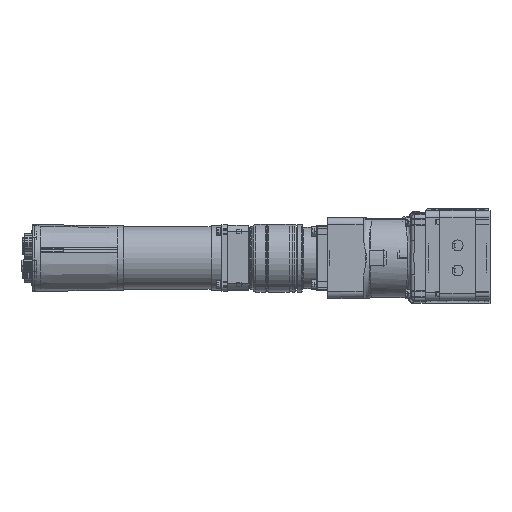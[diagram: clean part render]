
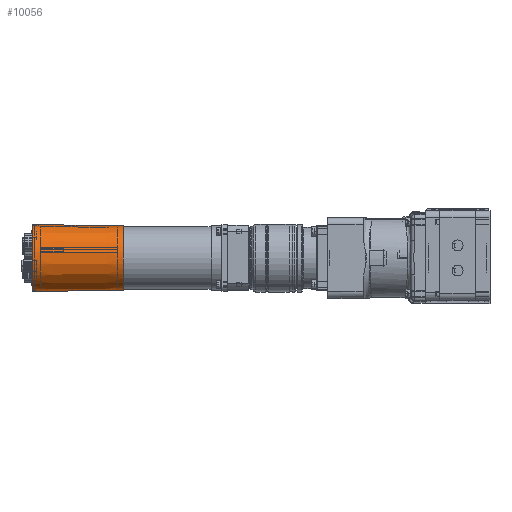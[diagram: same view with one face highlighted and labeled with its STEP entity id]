
A CAD part, top view. The second image highlights one B-rep face of the part: STEP entity #10056.
In plain terms, the highlighted conical face has half-angle 0.716 degrees and reference radius 28.5 mm.
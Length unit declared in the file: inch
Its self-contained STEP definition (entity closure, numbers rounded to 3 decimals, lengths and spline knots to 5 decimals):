
#62 = VERTEX_POINT ( 'NONE', #10716 ) ;
#1741 = DIRECTION ( 'NONE',  ( 0., 0., -1. ) ) ;
#4097 = FACE_BOUND ( 'NONE', #8392, .T. ) ;
#8064 = AXIS2_PLACEMENT_3D ( 'NONE', #11420, #1741, #16740 ) ;
#8392 = EDGE_LOOP ( 'NONE', ( #21698 ) ) ;
#10056 = ADVANCED_FACE ( 'NONE', ( #4097, #62373 ), #17629, .T. ) ;
#10675 = EDGE_LOOP ( 'NONE', ( #21995 ) ) ;
#10716 = CARTESIAN_POINT ( 'NONE',  ( 0., 1.12205, -7.10236 ) ) ;
#11420 = CARTESIAN_POINT ( 'NONE',  ( 0., 0., -7.10236 ) ) ;
#15911 = CIRCLE ( 'NONE', #65932, 1.12205 ) ;
#16675 = DIRECTION ( 'NONE',  ( 0., 1., 0. ) ) ;
#16740 = DIRECTION ( 'NONE',  ( 0., 1., 0. ) ) ;
#17629 = CONICAL_SURFACE ( 'NONE', #8064, 1.12205, 0.012 ) ;
#18776 = DIRECTION ( 'NONE',  ( 0., 1., 0. ) ) ;
#20842 = CIRCLE ( 'NONE', #25124, 1.16142 ) ;
#21698 = ORIENTED_EDGE ( 'NONE', *, *, #31095, .T. ) ;
#21995 = ORIENTED_EDGE ( 'NONE', *, *, #49060, .F. ) ;
#24103 = CARTESIAN_POINT ( 'NONE',  ( 0., 0., -7.10236 ) ) ;
#25124 = AXIS2_PLACEMENT_3D ( 'NONE', #57640, #61632, #16675 ) ;
#31095 = EDGE_CURVE ( 'NONE', #62, #62, #15911, .T. ) ;
#44827 = VERTEX_POINT ( 'NONE', #65137 ) ;
#45413 = DIRECTION ( 'NONE',  ( 0., 0., -1. ) ) ;
#49060 = EDGE_CURVE ( 'NONE', #44827, #44827, #20842, .T. ) ;
#57640 = CARTESIAN_POINT ( 'NONE',  ( 0., 0., -10.25197 ) ) ;
#61632 = DIRECTION ( 'NONE',  ( 0., 0., -1. ) ) ;
#62373 = FACE_OUTER_BOUND ( 'NONE', #10675, .T. ) ;
#65137 = CARTESIAN_POINT ( 'NONE',  ( 0., 1.16142, -10.25197 ) ) ;
#65932 = AXIS2_PLACEMENT_3D ( 'NONE', #24103, #45413, #18776 ) ;
